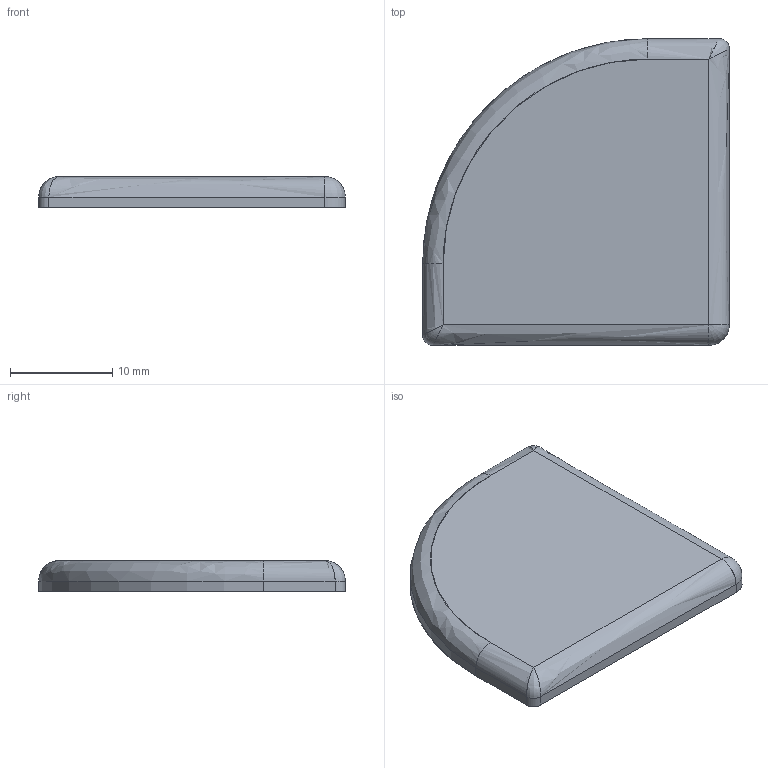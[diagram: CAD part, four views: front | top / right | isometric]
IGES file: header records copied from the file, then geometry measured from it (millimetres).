
Start section: SolidWorks IGES file using analytic representation for surfaces
Global section: file name: C:\Documents and Settings\Administrator\デスクトップ\指定保存後3回目\SolidWorks\SF\SF30\Parts\SFA-020.IGS; native system: SolidWorks 2006 by SolidWorks Corporation; preprocessor: SolidWorks 2006 by SolidWorks Corporation; author: Administrator; date: 061213.104840; units: millimetre
Bounding box: 30 x 30 x 3 mm (x, y, z)
Surface area: 1820.8 mm2 (no closed solid volume)
Topology: 0 solids, 0 shells, 18 faces, 181 edges, 215 vertices
Faces by surface type: bspline 9, revolution 9
